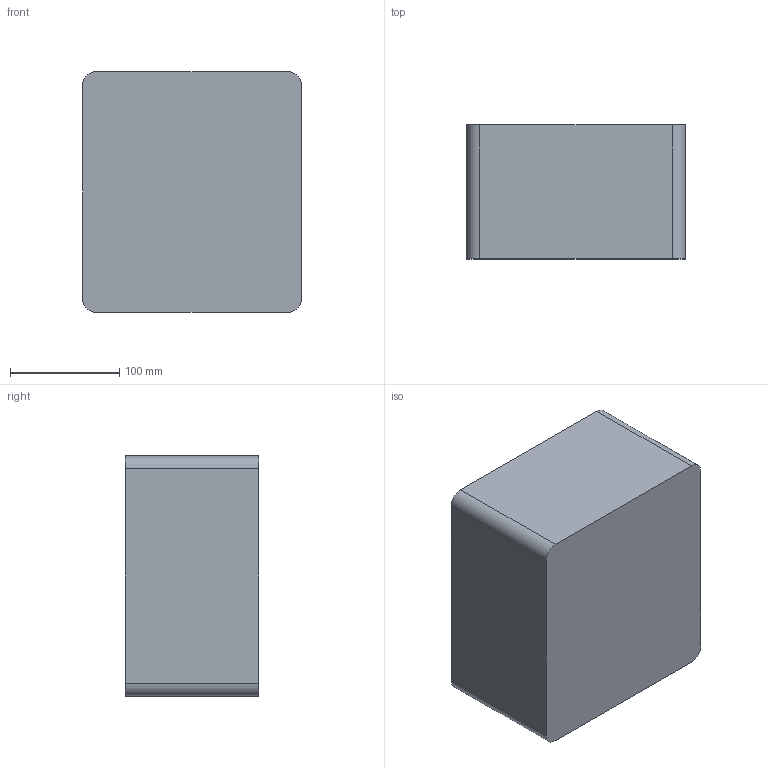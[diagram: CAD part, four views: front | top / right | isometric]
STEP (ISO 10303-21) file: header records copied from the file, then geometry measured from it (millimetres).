
FILE_DESCRIPTION(/* description */ (''),/* implementation_level */ '2;1');
FILE_NAME(/* name */ 'Shoe dryer lower body self tapping.stp',/* time_stamp */ '2026-06-08T22:49:15-05:00',/* author */ ('hardi'),/* organization */ (''),/* preprocessor_version */ 'ST-DEVELOPER v20.1',/* originating_system */ 'Autodesk Inventor 2026',/* authorisation */ '');
FILE_SCHEMA (('AUTOMOTIVE_DESIGN { 1 0 10303 214 3 1 1 }'));
Length unit declared in the file: millimetre
Products named in the file (1): Shoe dryer lower body
Bounding box: 200 x 122.5 x 220 mm (x, y, z)
Volume: 359576 mm3; surface area: 281785.9 mm2
Topology: 1 solids, 1 shells, 147 faces, 465 edges, 392 vertices
Faces by surface type: plane 78, cylinder 35, cone 34
Full cylindrical faces by diameter (mm): 3 x8, 116 x1
Entity records: 5163 total; most frequent: CARTESIAN_POINT 1101, DIRECTION 883, ORIENTED_EDGE 778, EDGE_CURVE 389, AXIS2_PLACEMENT_3D 318, LINE 247, VECTOR 247, VERTEX_POINT 244
